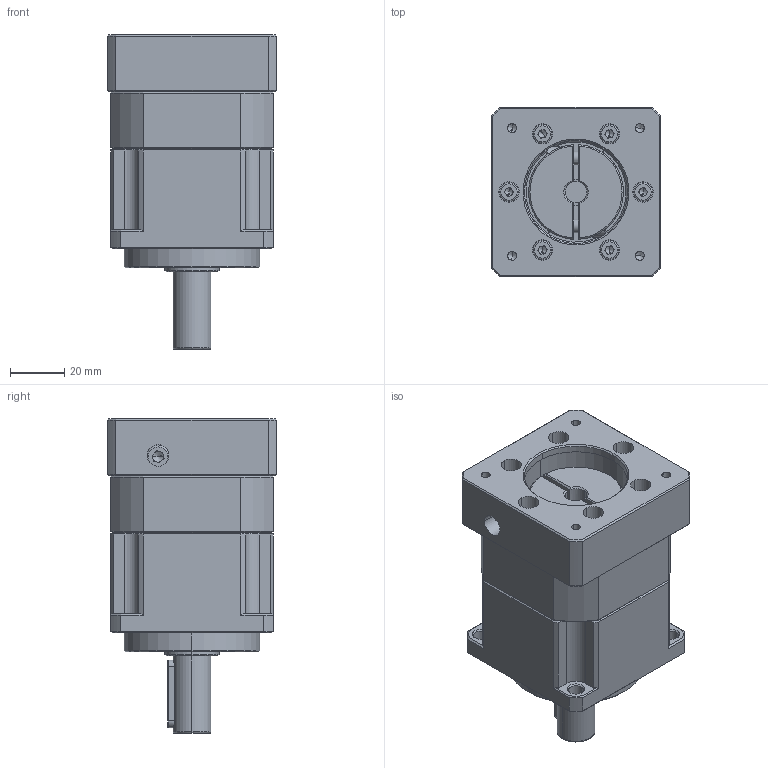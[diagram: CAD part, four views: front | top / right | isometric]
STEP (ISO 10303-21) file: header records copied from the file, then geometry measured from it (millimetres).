
FILE_DESCRIPTION (( 'STEP AP214' ), '1' );
FILE_NAME ('ZPB060-D14-L1-P1-8-38.1-47.14X47.14-M4.step', '2024-04-23T14:22:32', ( 'Windows 蚚誧' ), ( 'Organization' ), 'SwSTEP 2.0', 'SolidWorks 2016', '' );
FILE_SCHEMA (( 'AUTOMOTIVE_DESIGN' ));
Length unit declared in the file: millimetre
Products named in the file (1): ZPB060-D14-L1-P1-8-38.1-47.14X47.14-M4
Bounding box: 62.5 x 62.5 x 116 mm (x, y, z)
Volume: 244002.9 mm3; surface area: 67780.4 mm2
Topology: 13 solids, 13 shells, 1682 faces, 4483 edges, 2889 vertices
Faces by surface type: plane 899, bspline 322, cylinder 273, cone 172, torus 16
Entity records: 87195 total; most frequent: CARTESIAN_POINT 28809, ORIENTED_EDGE 8858, DIRECTION 7116, EDGE_CURVE 4429, VERTEX_POINT 2889, LINE 2864, VECTOR 2864, AXIS2_PLACEMENT_3D 2126
